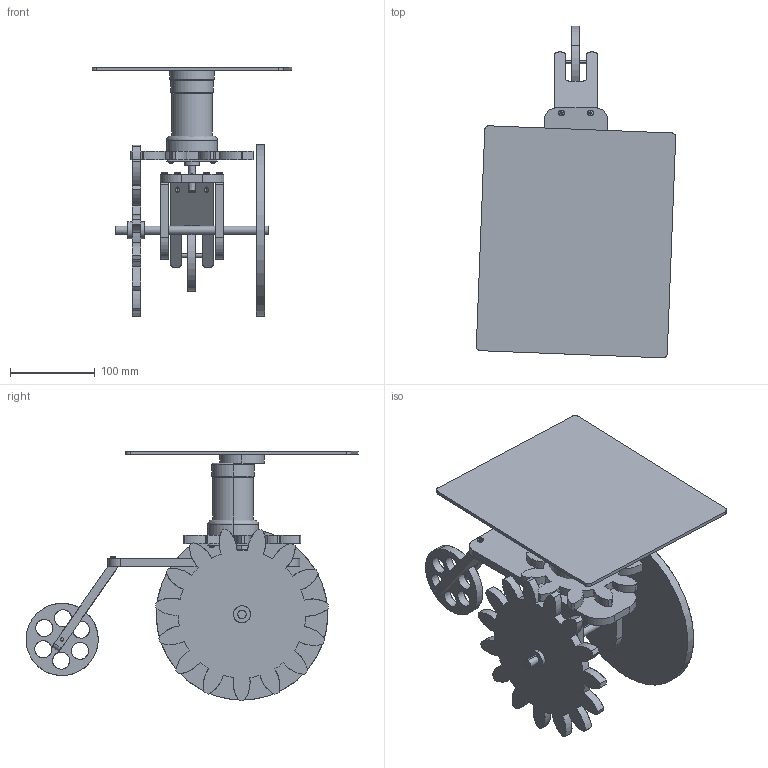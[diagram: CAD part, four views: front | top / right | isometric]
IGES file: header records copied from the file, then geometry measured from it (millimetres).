
Start section: SolidWorks IGES file using analytic representation for surfaces
Global section: file name: C:\Users\Laptop Adrian\Desktop\NEW2 INSTRUCTABLES PROYECTO PANEL ROTATORIO SUPERIOR\IGES\ENSAMBLAJE PANEL ROTATORIO.IGS; native system: SolidWorks 2017; preprocessor: SolidWorks 2017; author: Laptop Adrian; date: 210328.055417; units: millimetre
Bounding box: 234.77 x 390.92 x 294.2 mm (x, y, z)
Surface area: 417009.2 mm2 (no closed solid volume)
Topology: 0 solids, 0 shells, 567 faces, 8532 edges, 8532 vertices
Faces by surface type: revolution 309, bspline 258
